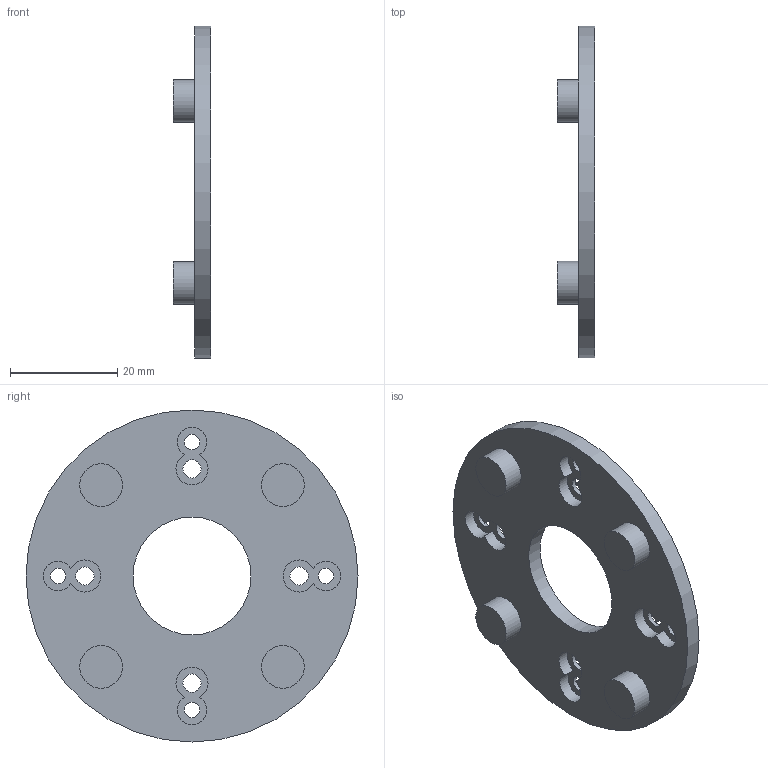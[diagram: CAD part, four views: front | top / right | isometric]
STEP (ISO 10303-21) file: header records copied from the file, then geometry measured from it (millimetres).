
FILE_DESCRIPTION(('Open CASCADE Model'),'2;1');
FILE_NAME('Open CASCADE Shape Model','2026-10-31T23:30:59',('Author'),( 'Open CASCADE'),'Open CASCADE STEP processor 7.9','Open CASCADE 7.9' ,'Unknown');
FILE_SCHEMA(('AUTOMOTIVE_DESIGN { 1 0 10303 214 1 1 1 1 }'));
Length unit declared in the file: millimetre
Products named in the file (1): Open CASCADE STEP translator 7.9 14
Bounding box: 7 x 62 x 62 mm (x, y, z)
Volume: 8225.6 mm3; surface area: 6675.3 mm2
Topology: 1 solids, 1 shells, 32 faces, 66 edges, 44 vertices
Faces by surface type: cylinder 22, plane 10
Full cylindrical faces by diameter (mm): 2.9 x4, 3.4 x4, 8 x4, 22 x1, 62 x1
Entity records: 1774 total; most frequent: CARTESIAN_POINT 315, DIRECTION 288, ORIENTED_EDGE 132, PCURVE 132, DEFINITIONAL_REPRESENTATION 132, LINE 94, VECTOR 94, CIRCLE 84
